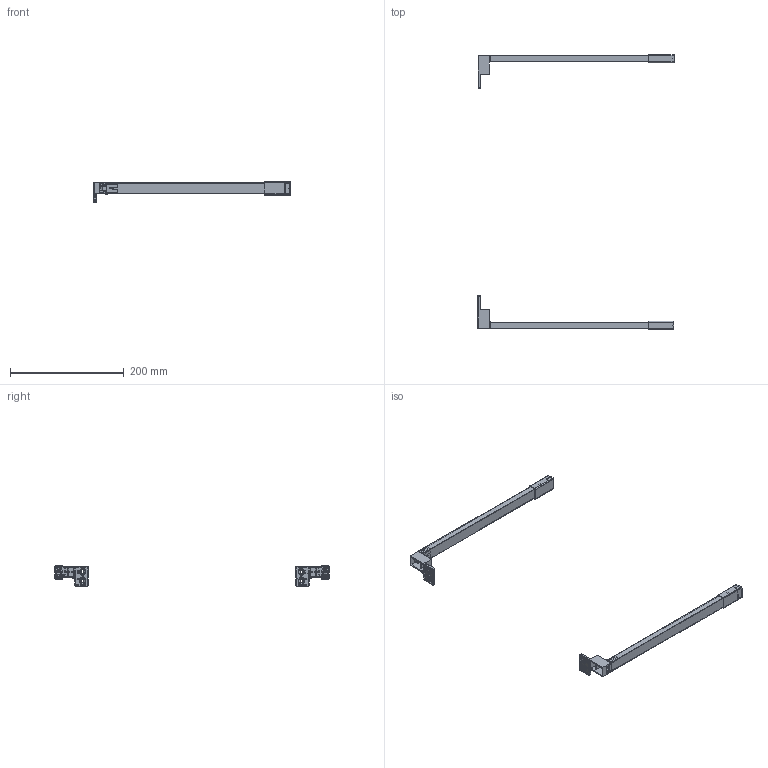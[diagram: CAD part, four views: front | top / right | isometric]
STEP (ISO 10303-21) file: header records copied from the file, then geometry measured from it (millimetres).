
FILE_DESCRIPTION(/* description */ (''),/* implementation_level */ '2;1');
FILE_NAME(/* name */ 'D:\$Workingspace\Designs\Katalog\Cadsoft\GTV Prowadnice\GTV 3D AXISPRO\Model\PB-AXISPRO-RELKW\PB-AXISPRO-RELKW-350.stp',/* time_stamp */ '2019-12-10T12:37:20+01:00',/* author */ ('tomaszw'),/* organization */ (''),/* preprocessor_version */ 'ST-DEVELOPER v17.2',/* originating_system */ 'Autodesk Inventor 2019',/* authorisation */ '');
FILE_SCHEMA (('AUTOMOTIVE_DESIGN { 1 0 10303 214 3 1 1 }'));
Products named in the file (12): RELING (PB-AXISPRO-RELKW)-01; reling L-01; Ö±°å³é¹Ì¶¨Ö
§¼Ü; reling-01; Ö±°å³é¹Ì¶¨Ö
§¼Ü_R; Ö±°å³é»î¶¯¿
é; Ö±°å³é½ºÌ×; Ö±°å³éÁ¬½Ó¿
é; CBZ·½¸ËÁ¬½Ó¼þ_
L; CBZ·½¸Ë-±³°åÁ¬
½Ó¼þ_L; CBZ·½¸ËÁ¬½Ó¼þ_
R; CBZ·½¸Ë-±³°åÁ¬
½Ó¼þ_R
Assembly tree (14 placements, depth 2):
  RELING (PB-AXISPRO-RELKW)-01
    reling L-01
    Ö±°å³é½ºÌ×  x2
    Ö±°å³é¹Ì¶¨Ö
§¼Ü
    Ö±°å³é»î¶¯¿
é  x2
    Ö±°å³éÁ¬½Ó¿
é  x2
    reling-01
    Ö±°å³é¹Ì¶¨Ö
§¼Ü_R
    CBZ·½¸ËÁ¬½Ó¼þ_
L
    CBZ·½¸Ë-±³°åÁ¬
½Ó¼þ_L
    CBZ·½¸ËÁ¬½Ó¼þ_
R
    CBZ·½¸Ë-±³°åÁ¬
½Ó¼þ_R
Bounding box: 345.37 x 483.35 x 35.9 mm (x, y, z)
Volume: 70077.1 mm3; surface area: 117625 mm2
Topology: 14 solids, 14 shells, 3788 faces, 9283 edges, 5206 vertices
Faces by surface type: cylinder 1612, plane 1022, torus 542, sphere 376, bspline 226, cone 10
Full cylindrical faces by diameter (mm): 4.5 x2, 8.4 x2
Entity records: 93484 total; most frequent: CARTESIAN_POINT 21306, DIRECTION 16166, ORIENTED_EDGE 14596, EDGE_CURVE 7298, AXIS2_PLACEMENT_3D 6242, VERTEX_POINT 4279, LINE 3682, VECTOR 3682
